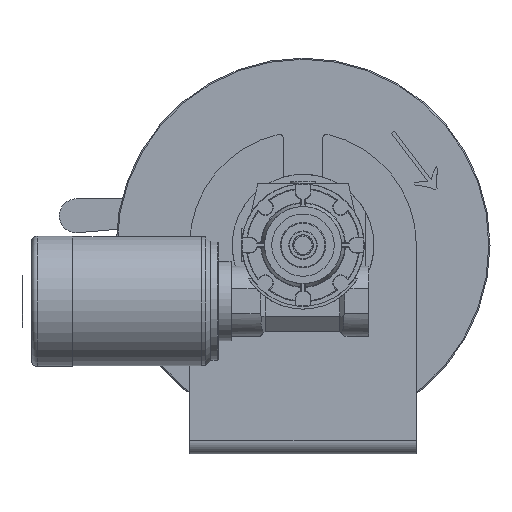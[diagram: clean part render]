
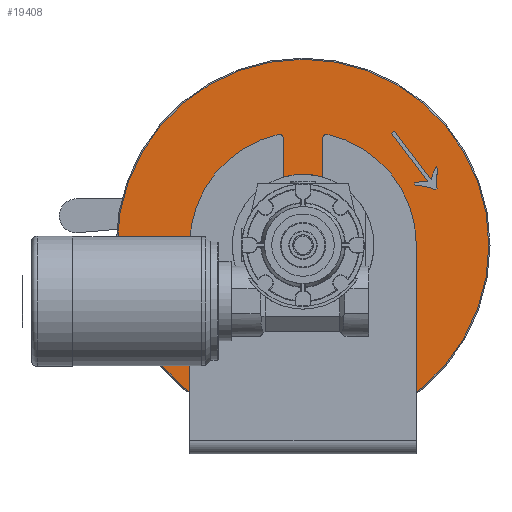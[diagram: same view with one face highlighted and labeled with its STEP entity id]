
A CAD part, left-side view. The second image highlights one B-rep face of the part: STEP entity #19408.
In plain terms, the highlighted planar face has unit normal (-1, 0, 0).
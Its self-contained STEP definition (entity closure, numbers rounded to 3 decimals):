
#320=B_SPLINE_CURVE_WITH_KNOTS('',2,(#35726,#35727,#35728,#35729),
 .UNSPECIFIED.,.F.,.F.,(3,1,3),(0.,1.,2.),.UNSPECIFIED.);
#322=B_SPLINE_CURVE_WITH_KNOTS('',2,(#35754,#35755,#35756,#35757),
 .UNSPECIFIED.,.F.,.F.,(3,1,3),(0.,1.,2.),.UNSPECIFIED.);
#324=B_SPLINE_CURVE_WITH_KNOTS('',2,(#35777,#35778,#35779),
 .UNSPECIFIED.,.F.,.F.,(3,3),(0.,1.),.UNSPECIFIED.);
#326=B_SPLINE_CURVE_WITH_KNOTS('',2,(#35802,#35803,#35804,#35805),
 .UNSPECIFIED.,.F.,.F.,(3,1,3),(0.,1.,2.),.UNSPECIFIED.);
#503=FACE_BOUND('',#3257,.T.);
#504=FACE_BOUND('',#3258,.T.);
#967=PLANE('',#21789);
#2055=FACE_OUTER_BOUND('',#3256,.T.);
#3256=EDGE_LOOP('',(#17589));
#3257=EDGE_LOOP('',(#17590,#17591,#17592,#17593,#17594,#17595,#17596,#17597,
#17598,#17599));
#3258=EDGE_LOOP('',(#17600));
#4551=CIRCLE('',#21692,12.5);
#4565=CIRCLE('',#21718,164.);
#5970=LINE('',#35736,#7311);
#5974=LINE('',#35763,#7315);
#5977=LINE('',#35784,#7318);
#5981=LINE('',#35811,#7322);
#5984=LINE('',#35817,#7325);
#5987=LINE('',#35821,#7328);
#7311=VECTOR('',#27801,10.);
#7315=VECTOR('',#27807,10.);
#7318=VECTOR('',#27812,10.);
#7322=VECTOR('',#27818,10.);
#7325=VECTOR('',#27823,10.);
#7328=VECTOR('',#27828,10.);
#9063=VERTEX_POINT('',#35242);
#9076=VERTEX_POINT('',#35289);
#9116=VERTEX_POINT('',#35723);
#9117=VERTEX_POINT('',#35725);
#9119=VERTEX_POINT('',#35734);
#9121=VERTEX_POINT('',#35752);
#9123=VERTEX_POINT('',#35761);
#9125=VERTEX_POINT('',#35775);
#9127=VERTEX_POINT('',#35783);
#9129=VERTEX_POINT('',#35801);
#9131=VERTEX_POINT('',#35810);
#9133=VERTEX_POINT('',#35816);
#11871=EDGE_CURVE('',#9063,#9063,#4551,.T.);
#11893=EDGE_CURVE('',#9076,#9076,#4565,.T.);
#11956=EDGE_CURVE('',#9117,#9116,#320,.T.);
#11960=EDGE_CURVE('',#9116,#9119,#5970,.T.);
#11963=EDGE_CURVE('',#9119,#9121,#322,.T.);
#11966=EDGE_CURVE('',#9121,#9123,#5974,.T.);
#11969=EDGE_CURVE('',#9123,#9125,#324,.T.);
#11971=EDGE_CURVE('',#9127,#9117,#5977,.T.);
#11974=EDGE_CURVE('',#9129,#9127,#326,.T.);
#11977=EDGE_CURVE('',#9131,#9129,#5981,.T.);
#11980=EDGE_CURVE('',#9133,#9131,#5984,.T.);
#11983=EDGE_CURVE('',#9125,#9133,#5987,.T.);
#17589=ORIENTED_EDGE('',*,*,#11893,.F.);
#17590=ORIENTED_EDGE('',*,*,#11983,.T.);
#17591=ORIENTED_EDGE('',*,*,#11980,.T.);
#17592=ORIENTED_EDGE('',*,*,#11977,.T.);
#17593=ORIENTED_EDGE('',*,*,#11974,.T.);
#17594=ORIENTED_EDGE('',*,*,#11971,.T.);
#17595=ORIENTED_EDGE('',*,*,#11956,.T.);
#17596=ORIENTED_EDGE('',*,*,#11960,.T.);
#17597=ORIENTED_EDGE('',*,*,#11963,.T.);
#17598=ORIENTED_EDGE('',*,*,#11966,.T.);
#17599=ORIENTED_EDGE('',*,*,#11969,.T.);
#17600=ORIENTED_EDGE('',*,*,#11871,.F.);
#19408=ADVANCED_FACE('',(#2055,#503,#504),#967,.T.);
#21692=AXIS2_PLACEMENT_3D('',#35243,#27599,#27600);
#21718=AXIS2_PLACEMENT_3D('',#35290,#27659,#27660);
#21789=AXIS2_PLACEMENT_3D('',#35823,#27831,#27832);
#27599=DIRECTION('center_axis',(-1.,0.,0.));
#27600=DIRECTION('ref_axis',(0.,1.,0.));
#27659=DIRECTION('center_axis',(1.,0.,0.));
#27660=DIRECTION('ref_axis',(0.,0.,
-1.));
#27801=DIRECTION('',(0.,0.798,-0.602));
#27807=DIRECTION('',(0.,0.602,0.798));
#27812=DIRECTION('',(0.,-0.602,-0.798));
#27818=DIRECTION('',(0.,-0.602,-0.798));
#27823=DIRECTION('',(0.,-0.798,0.602));
#27828=DIRECTION('',(0.,0.602,0.798));
#27831=DIRECTION('center_axis',(-1.,0.,0.));
#27832=DIRECTION('ref_axis',(0.,-1.,0.));
#35242=CARTESIAN_POINT('',(-143.036,-12.5,184.214));
#35243=CARTESIAN_POINT('Origin',(-143.036,0.,
184.214));
#35289=CARTESIAN_POINT('',(-143.036,164.,184.214));
#35290=CARTESIAN_POINT('Origin',(-143.036,0.,
184.214));
#35723=CARTESIAN_POINT('',(-143.036,-118.311,233.775));
#35725=CARTESIAN_POINT('',(-143.036,-118.89,251.572));
#35726=CARTESIAN_POINT('Ctrl Pts',(-143.036,-118.89,251.572));
#35727=CARTESIAN_POINT('Ctrl Pts',(-143.036,-117.694,245.086));
#35728=CARTESIAN_POINT('Ctrl Pts',(-143.036,-117.556,236.86));
#35729=CARTESIAN_POINT('Ctrl Pts',(-143.036,-118.311,233.775));
#35734=CARTESIAN_POINT('',(-143.036,-117.114,232.872));
#35736=CARTESIAN_POINT('',(-143.036,-95.393,216.48));
#35752=CARTESIAN_POINT('',(-143.036,-99.59,237.058));
#35754=CARTESIAN_POINT('Ctrl Pts',(-143.036,-117.114,232.872));
#35755=CARTESIAN_POINT('Ctrl Pts',(-143.036,-113.819,234.547));
#35756=CARTESIAN_POINT('Ctrl Pts',(-143.036,-106.05,236.502));
#35757=CARTESIAN_POINT('Ctrl Pts',(-143.036,-99.59,237.058));
#35761=CARTESIAN_POINT('',(-143.036,-98.028,239.128));
#35763=CARTESIAN_POINT('',(-143.036,-66.159,281.359));
#35775=CARTESIAN_POINT('',(-143.036,-110.286,240.104));
#35777=CARTESIAN_POINT('Ctrl Pts',(-143.036,-98.028,239.128));
#35778=CARTESIAN_POINT('Ctrl Pts',(-143.036,-105.333,240.681));
#35779=CARTESIAN_POINT('Ctrl Pts',(-143.036,-110.286,240.104));
#35783=CARTESIAN_POINT('',(-143.036,-117.353,253.61));
#35784=CARTESIAN_POINT('',(-143.036,-86.228,294.855));
#35801=CARTESIAN_POINT('',(-143.036,-113.003,242.154));
#35802=CARTESIAN_POINT('Ctrl Pts',(-143.036,-113.003,242.154));
#35803=CARTESIAN_POINT('Ctrl Pts',(-143.036,-114.052,246.145));
#35804=CARTESIAN_POINT('Ctrl Pts',(-143.036,-115.355,249.665));
#35805=CARTESIAN_POINT('Ctrl Pts',(-143.036,-117.353,253.61));
#35810=CARTESIAN_POINT('',(-143.036,-80.737,284.912));
#35811=CARTESIAN_POINT('',(-143.036,-79.144,287.022));
#35816=CARTESIAN_POINT('',(-143.036,-78.02,282.862));
#35817=CARTESIAN_POINT('',(-143.036,-58.093,267.824));
#35821=CARTESIAN_POINT('',(-143.036,-60.295,306.35));
#35823=CARTESIAN_POINT('Origin',(-143.036,0.,
297.714));
